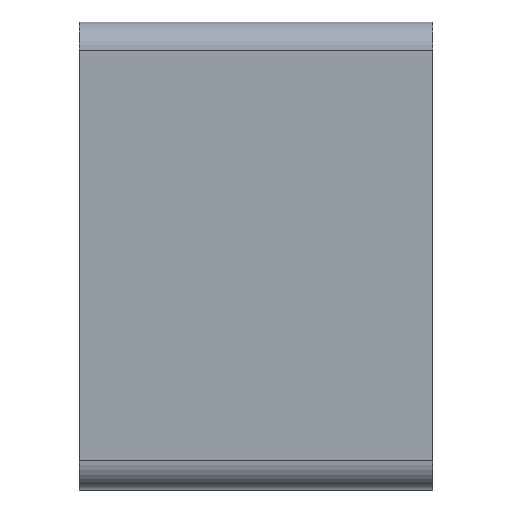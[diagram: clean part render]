
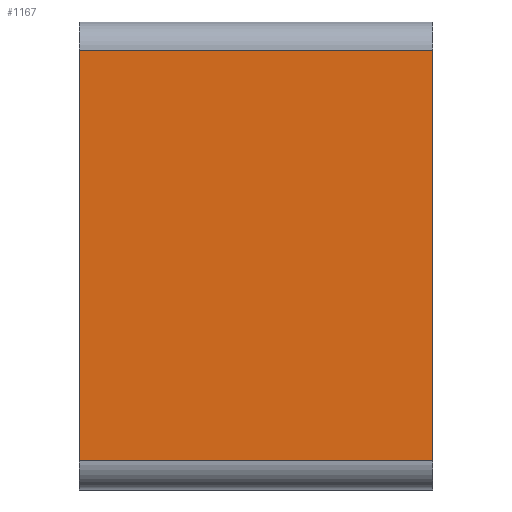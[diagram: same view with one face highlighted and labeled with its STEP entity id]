
A CAD part, top view. The second image highlights one B-rep face of the part: STEP entity #1167.
In plain terms, the highlighted planar face has unit normal (0, 0, 1).
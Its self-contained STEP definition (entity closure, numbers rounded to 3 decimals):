
#32 = PLANE('',#33);
#33 = AXIS2_PLACEMENT_3D('',#34,#35,#36);
#34 = CARTESIAN_POINT('',(19.25,23.4,-12.5));
#35 = DIRECTION('',(-1.,0.,0.));
#36 = DIRECTION('',(0.,0.,1.));
#117 = VERTEX_POINT('',#118);
#118 = CARTESIAN_POINT('',(19.25,21.95,-7.7));
#137 = CYLINDRICAL_SURFACE('',#138,0.2);
#138 = AXIS2_PLACEMENT_3D('',#139,#140,#141);
#139 = CARTESIAN_POINT('',(20.5,21.95,-7.9));
#140 = DIRECTION('',(-1.,-0.,0.));
#141 = DIRECTION('',(0.,0.,1.));
#148 = EDGE_CURVE('',#149,#117,#151,.T.);
#149 = VERTEX_POINT('',#150);
#150 = CARTESIAN_POINT('',(19.25,24.85,-7.7));
#151 = SURFACE_CURVE('',#152,(#156,#163),.PCURVE_S1.);
#152 = LINE('',#153,#154);
#153 = CARTESIAN_POINT('',(19.25,24.85,-7.7));
#154 = VECTOR('',#155,1.);
#155 = DIRECTION('',(0.,-1.,0.));
#156 = PCURVE('',#32,#157);
#157 = DEFINITIONAL_REPRESENTATION('',(#158),#162);
#158 = LINE('',#159,#160);
#159 = CARTESIAN_POINT('',(4.8,1.45));
#160 = VECTOR('',#161,1.);
#161 = DIRECTION('',(0.,-1.));
#162 = ( GEOMETRIC_REPRESENTATION_CONTEXT(2) 
PARAMETRIC_REPRESENTATION_CONTEXT() REPRESENTATION_CONTEXT('2D SPACE',''
  ) );
#163 = PCURVE('',#164,#169);
#164 = PLANE('',#165);
#165 = AXIS2_PLACEMENT_3D('',#166,#167,#168);
#166 = CARTESIAN_POINT('',(20.5,24.85,-7.7));
#167 = DIRECTION('',(0.,0.,1.));
#168 = DIRECTION('',(-1.,0.,0.));
#169 = DEFINITIONAL_REPRESENTATION('',(#170),#174);
#170 = LINE('',#171,#172);
#171 = CARTESIAN_POINT('',(1.25,0.));
#172 = VECTOR('',#173,1.);
#173 = DIRECTION('',(0.,1.));
#174 = ( GEOMETRIC_REPRESENTATION_CONTEXT(2) 
PARAMETRIC_REPRESENTATION_CONTEXT() REPRESENTATION_CONTEXT('2D SPACE',''
  ) );
#197 = CYLINDRICAL_SURFACE('',#198,0.2);
#198 = AXIS2_PLACEMENT_3D('',#199,#200,#201);
#199 = CARTESIAN_POINT('',(20.5,24.85,-7.9));
#200 = DIRECTION('',(-1.,0.,0.));
#201 = DIRECTION('',(0.,1.,0.));
#551 = PLANE('',#552);
#552 = AXIS2_PLACEMENT_3D('',#553,#554,#555);
#553 = CARTESIAN_POINT('',(21.75,23.4,-12.5));
#554 = DIRECTION('',(1.,-0.,0.));
#555 = DIRECTION('',(0.,0.,-1.));
#801 = VERTEX_POINT('',#802);
#802 = CARTESIAN_POINT('',(21.75,24.85,-7.7));
#823 = EDGE_CURVE('',#801,#824,#826,.T.);
#824 = VERTEX_POINT('',#825);
#825 = CARTESIAN_POINT('',(21.75,21.95,-7.7));
#826 = SURFACE_CURVE('',#827,(#831,#838),.PCURVE_S1.);
#827 = LINE('',#828,#829);
#828 = CARTESIAN_POINT('',(21.75,24.85,-7.7));
#829 = VECTOR('',#830,1.);
#830 = DIRECTION('',(0.,-1.,0.));
#831 = PCURVE('',#551,#832);
#832 = DEFINITIONAL_REPRESENTATION('',(#833),#837);
#833 = LINE('',#834,#835);
#834 = CARTESIAN_POINT('',(-4.8,1.45));
#835 = VECTOR('',#836,1.);
#836 = DIRECTION('',(0.,-1.));
#837 = ( GEOMETRIC_REPRESENTATION_CONTEXT(2) 
PARAMETRIC_REPRESENTATION_CONTEXT() REPRESENTATION_CONTEXT('2D SPACE',''
  ) );
#838 = PCURVE('',#164,#839);
#839 = DEFINITIONAL_REPRESENTATION('',(#840),#844);
#840 = LINE('',#841,#842);
#841 = CARTESIAN_POINT('',(-1.25,0.));
#842 = VECTOR('',#843,1.);
#843 = DIRECTION('',(0.,1.));
#844 = ( GEOMETRIC_REPRESENTATION_CONTEXT(2) 
PARAMETRIC_REPRESENTATION_CONTEXT() REPRESENTATION_CONTEXT('2D SPACE',''
  ) );
#1119 = EDGE_CURVE('',#801,#149,#1120,.T.);
#1120 = SURFACE_CURVE('',#1121,(#1125,#1132),.PCURVE_S1.);
#1121 = LINE('',#1122,#1123);
#1122 = CARTESIAN_POINT('',(20.5,24.85,-7.7));
#1123 = VECTOR('',#1124,1.);
#1124 = DIRECTION('',(-1.,0.,0.));
#1125 = PCURVE('',#197,#1126);
#1126 = DEFINITIONAL_REPRESENTATION('',(#1127),#1131);
#1127 = LINE('',#1128,#1129);
#1128 = CARTESIAN_POINT('',(-1.571,0.));
#1129 = VECTOR('',#1130,1.);
#1130 = DIRECTION('',(-0.,1.));
#1131 = ( GEOMETRIC_REPRESENTATION_CONTEXT(2) 
PARAMETRIC_REPRESENTATION_CONTEXT() REPRESENTATION_CONTEXT('2D SPACE',''
  ) );
#1132 = PCURVE('',#164,#1133);
#1133 = DEFINITIONAL_REPRESENTATION('',(#1134),#1138);
#1134 = LINE('',#1135,#1136);
#1135 = CARTESIAN_POINT('',(0.,0.));
#1136 = VECTOR('',#1137,1.);
#1137 = DIRECTION('',(1.,0.));
#1138 = ( GEOMETRIC_REPRESENTATION_CONTEXT(2) 
PARAMETRIC_REPRESENTATION_CONTEXT() REPRESENTATION_CONTEXT('2D SPACE',''
  ) );
#1167 = ADVANCED_FACE('',(#1168),#164,.T.);
#1168 = FACE_BOUND('',#1169,.T.);
#1169 = EDGE_LOOP('',(#1170,#1171,#1172,#1173));
#1170 = ORIENTED_EDGE('',*,*,#823,.F.);
#1171 = ORIENTED_EDGE('',*,*,#1119,.T.);
#1172 = ORIENTED_EDGE('',*,*,#148,.T.);
#1173 = ORIENTED_EDGE('',*,*,#1174,.F.);
#1174 = EDGE_CURVE('',#824,#117,#1175,.T.);
#1175 = SURFACE_CURVE('',#1176,(#1180,#1187),.PCURVE_S1.);
#1176 = LINE('',#1177,#1178);
#1177 = CARTESIAN_POINT('',(20.5,21.95,-7.7));
#1178 = VECTOR('',#1179,1.);
#1179 = DIRECTION('',(-1.,0.,0.));
#1180 = PCURVE('',#164,#1181);
#1181 = DEFINITIONAL_REPRESENTATION('',(#1182),#1186);
#1182 = LINE('',#1183,#1184);
#1183 = CARTESIAN_POINT('',(0.,2.9));
#1184 = VECTOR('',#1185,1.);
#1185 = DIRECTION('',(1.,0.));
#1186 = ( GEOMETRIC_REPRESENTATION_CONTEXT(2) 
PARAMETRIC_REPRESENTATION_CONTEXT() REPRESENTATION_CONTEXT('2D SPACE',''
  ) );
#1187 = PCURVE('',#137,#1188);
#1188 = DEFINITIONAL_REPRESENTATION('',(#1189),#1192);
#1189 = B_SPLINE_CURVE_WITH_KNOTS('',1,(#1190,#1191),.UNSPECIFIED.,.F.,
  .F.,(2,2),(-1.25,1.25),.PIECEWISE_BEZIER_KNOTS.);
#1190 = CARTESIAN_POINT('',(0.,-1.25));
#1191 = CARTESIAN_POINT('',(0.,1.25));
#1192 = ( GEOMETRIC_REPRESENTATION_CONTEXT(2) 
PARAMETRIC_REPRESENTATION_CONTEXT() REPRESENTATION_CONTEXT('2D SPACE',''
  ) );
